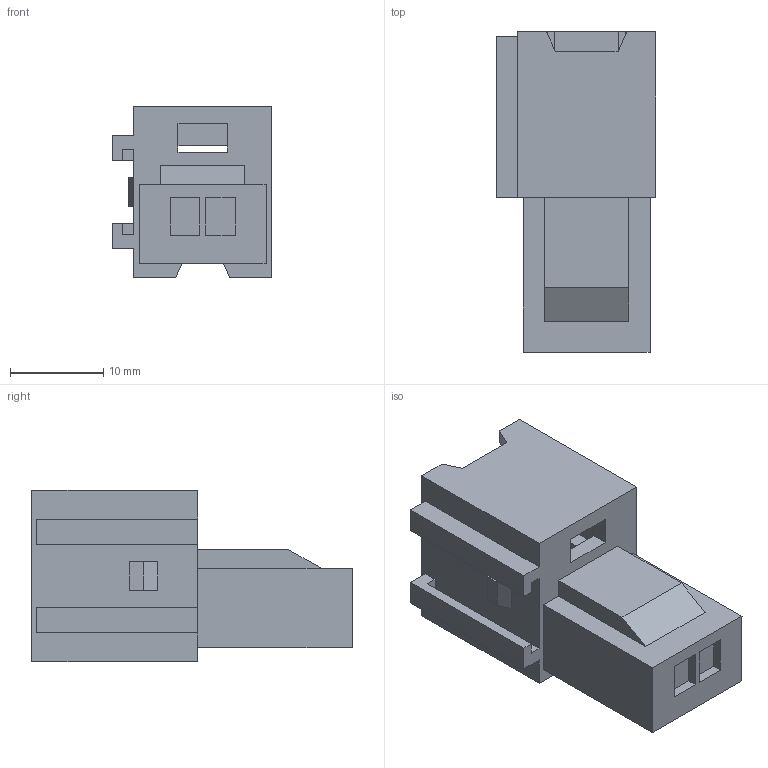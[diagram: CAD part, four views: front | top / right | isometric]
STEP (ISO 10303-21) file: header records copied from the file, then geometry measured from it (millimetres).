
FILE_DESCRIPTION(('CATIA V5 STEP','CAx-IF Rec.Pracs.--- Model Styling and Organization---1.4--- 2014-01-23'),'2;1');
FILE_NAME('\\fss02.ad.sws.co.jp\fs100016\第3設計部\共有\コネクタ第1Gr\【91】一時保管\★カタログ用参考資料\簡易３D\stp_送付用\6098-6960.stp','2024-10-07T06:43:09+00:00',('none'),('none'),'CATIA Version 5-6 Release 2018 SP4','CATIA V5 STEP AP214','none');
FILE_SCHEMA(('AUTOMOTIVE_DESIGN { 1 0 10303 214 1 1 1 1 }'));
Length unit declared in the file: millimetre
Products named in the file (1): 6098-6960
Bounding box: 17.1 x 34.3 x 18.35 mm (x, y, z)
Volume: 4453.6 mm3; surface area: 3946.5 mm2
Topology: 1 solids, 1 shells, 86 faces, 244 edges, 164 vertices
Faces by surface type: plane 86
Entity records: 2676 total; most frequent: ORIENTED_EDGE 488, CARTESIAN_POINT 477, DIRECTION 380, VECTOR 244, EDGE_CURVE 244, LINE 244, VERTEX_POINT 164, EDGE_LOOP 92
